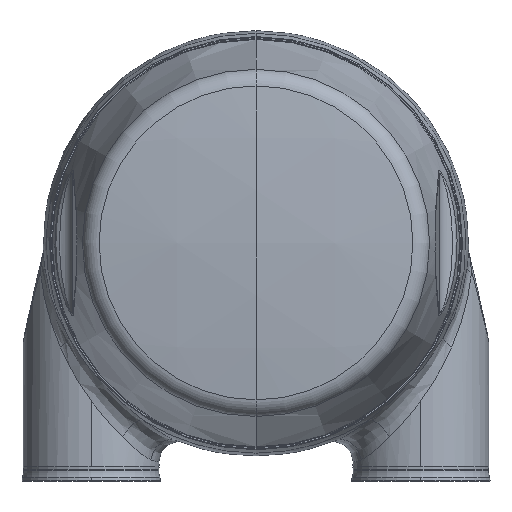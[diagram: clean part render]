
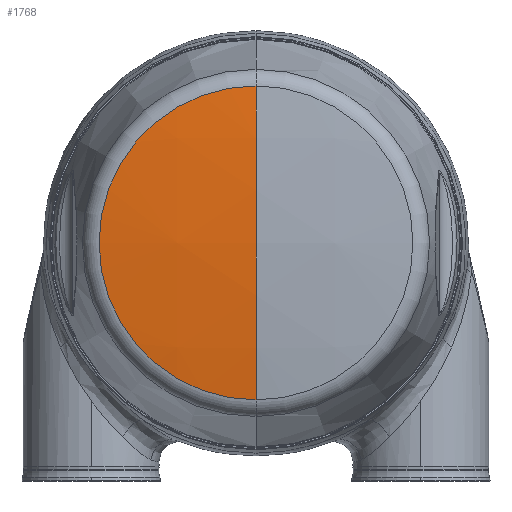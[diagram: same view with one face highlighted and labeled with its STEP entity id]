
A CAD part, top view. The second image highlights one B-rep face of the part: STEP entity #1768.
In plain terms, the highlighted spherical face has radius 200 mm.
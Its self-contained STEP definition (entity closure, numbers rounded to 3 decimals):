
#1448 = FACE_OUTER_BOUND ( 'NONE', #3211, .T. ) ;
#1768 = ADVANCED_FACE ( 'NONE', ( #1448 ), #5810, .T. ) ;
#2318 = CARTESIAN_POINT ( 'NONE',  ( 0., -24.283, 40.272 ) ) ;
#2679 = ORIENTED_EDGE ( 'NONE', *, *, #14585, .T. ) ;
#3055 = CIRCLE ( 'NONE', #3333, 200. ) ;
#3211 = EDGE_LOOP ( 'NONE', ( #13961, #2679, #15483 ) ) ;
#3333 = AXIS2_PLACEMENT_3D ( 'NONE', #16492, #11058, #12467 ) ;
#3798 = CARTESIAN_POINT ( 'NONE',  ( 0., 0., 41.751 ) ) ;
#3904 = DIRECTION ( 'NONE',  ( 0., -1., 0. ) ) ;
#4549 = VERTEX_POINT ( 'NONE', #2318 ) ;
#4938 = EDGE_CURVE ( 'NONE', #12910, #4549, #13371, .T. ) ;
#5076 = DIRECTION ( 'NONE',  ( 0., 1., 0. ) ) ;
#5535 = AXIS2_PLACEMENT_3D ( 'NONE', #17297, #15644, #3904 ) ;
#5810 = SPHERICAL_SURFACE ( 'NONE', #8203, 200. ) ;
#7226 = EDGE_CURVE ( 'NONE', #8434, #4549, #3055, .T. ) ;
#7935 = CARTESIAN_POINT ( 'NONE',  ( 0., 24.283, 40.272 ) ) ;
#8203 = AXIS2_PLACEMENT_3D ( 'NONE', #12368, #16387, #16480 ) ;
#8344 = AXIS2_PLACEMENT_3D ( 'NONE', #13040, #17065, #5076 ) ;
#8434 = VERTEX_POINT ( 'NONE', #3798 ) ;
#8614 = CIRCLE ( 'NONE', #5535, 200. ) ;
#11058 = DIRECTION ( 'NONE',  ( 1., 0., 0. ) ) ;
#12368 = CARTESIAN_POINT ( 'NONE',  ( 0., 0., -158.249 ) ) ;
#12467 = DIRECTION ( 'NONE',  ( 0., 1., 0. ) ) ;
#12910 = VERTEX_POINT ( 'NONE', #7935 ) ;
#13040 = CARTESIAN_POINT ( 'NONE',  ( 0., 0., 40.272 ) ) ;
#13371 = CIRCLE ( 'NONE', #8344, 24.283 ) ;
#13961 = ORIENTED_EDGE ( 'NONE', *, *, #7226, .F. ) ;
#14585 = EDGE_CURVE ( 'NONE', #8434, #12910, #8614, .T. ) ;
#15483 = ORIENTED_EDGE ( 'NONE', *, *, #4938, .T. ) ;
#15644 = DIRECTION ( 'NONE',  ( -1., 0., 0. ) ) ;
#16387 = DIRECTION ( 'NONE',  ( -1., 0., 0. ) ) ;
#16480 = DIRECTION ( 'NONE',  ( 0., -1., 0. ) ) ;
#16492 = CARTESIAN_POINT ( 'NONE',  ( 0., 0., -158.249 ) ) ;
#17065 = DIRECTION ( 'NONE',  ( 0., 0., 1. ) ) ;
#17297 = CARTESIAN_POINT ( 'NONE',  ( 0., 0., -158.249 ) ) ;
